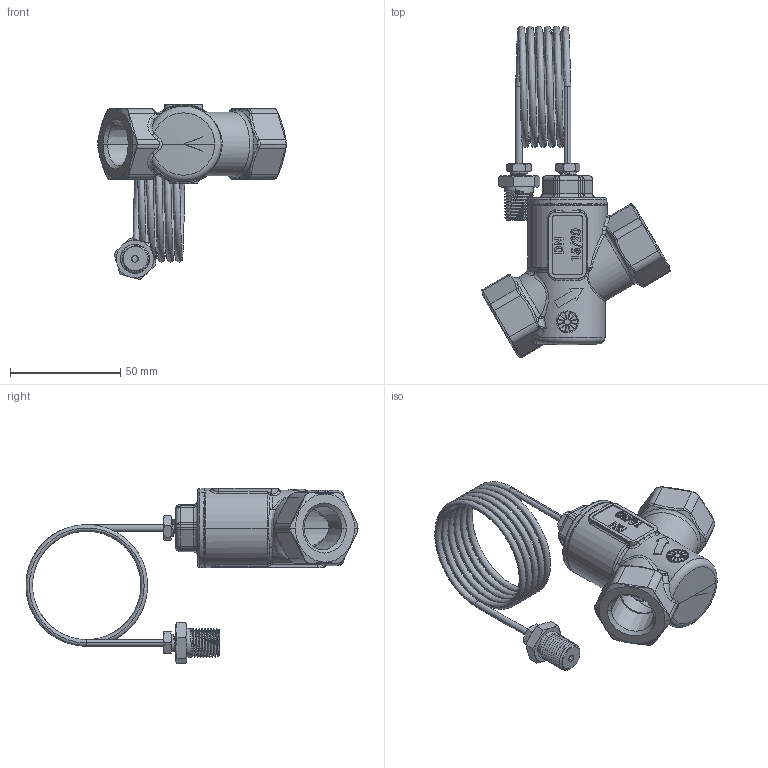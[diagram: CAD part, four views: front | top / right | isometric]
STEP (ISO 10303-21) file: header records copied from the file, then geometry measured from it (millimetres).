
FILE_DESCRIPTION (( 'STEP AP203' ), '1' );
FILE_NAME ('SDP.30 AHouse DN15 ISO FF.step', '2024-04-12T07:30:07', ( '' ), ( '' ), 'SwSTEP 2.0', 'SolidWorks 2023', '' );
FILE_SCHEMA (( 'CONFIG_CONTROL_DESIGN' ));
Length unit declared in the file: millimetre
Products named in the file (1): SDP.30 AHouse DN15 ISO FF
Bounding box: 85.65 x 150.88 x 79.64 mm (x, y, z)
Surface area: 32230.4 mm2 (no closed solid volume)
Topology: 0 solids, 9 shells, 671 faces, 1978 edges, 1264 vertices
Faces by surface type: plane 213, cylinder 190, bspline 127, torus 66, cone 57, sphere 18
Entity records: 35476 total; most frequent: CARTESIAN_POINT 19158, ORIENTED_EDGE 3424, DIRECTION 3108, EDGE_CURVE 1952, VERTEX_POINT 1260, AXIS2_PLACEMENT_3D 1155, LINE 798, VECTOR 798
